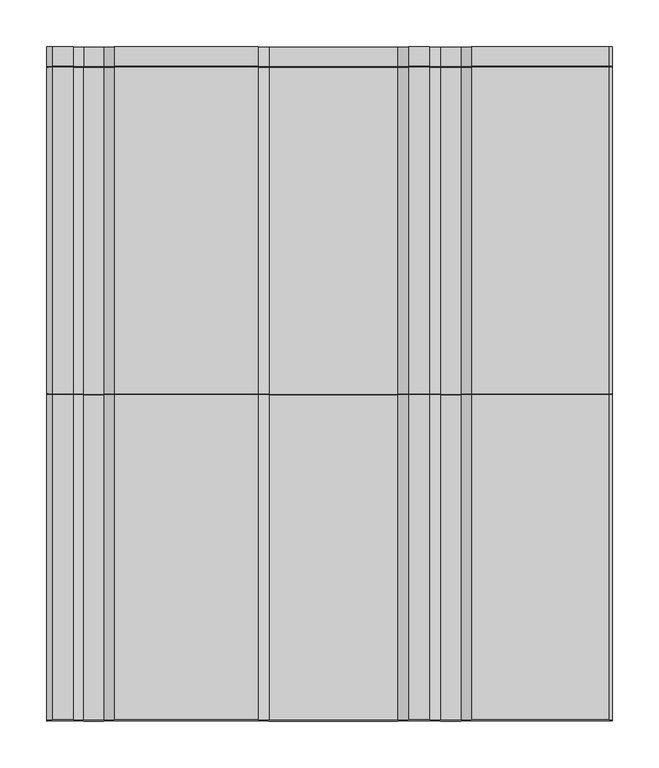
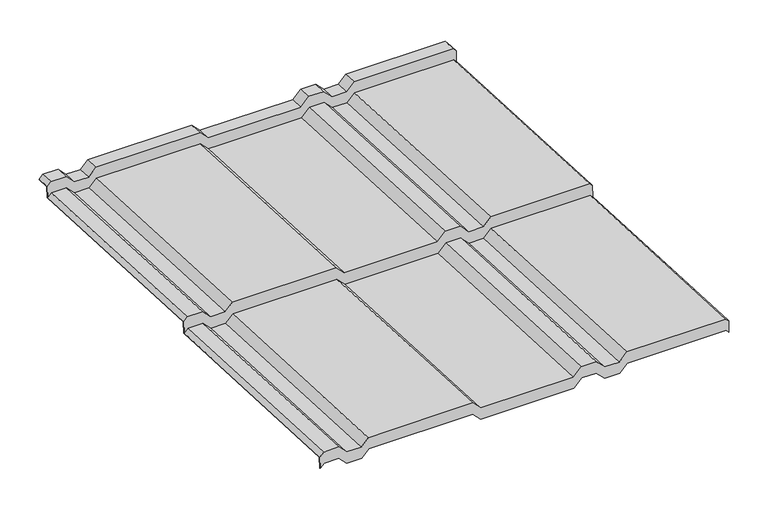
"""IFC4 building model written with IfcOpenShell, lengths in millimetres: proxy geometry, AQUAPLAST - Blachodachówka Alice : Blachodachówka Alice."""

from ifc_helpers import new_model, si_unit, origin, place, context, project, spatial, faceted_brep, source, transform, mapped, element, save


def specialty_equipment_0748cc8f(model_context):
    return source(origin(), model_context, "Body", "Brep", [
        faceted_brep([(-571.7598776, 0.6696996, 23.5766757), (-565.8406904, 0.9640097, 29.4885417), (-543.7088996, 0.9640097, 29.4885417), (-532.2088996, 0.3922139, 18.0027657), (-510.4160064, 0.3922139, 18.0027657), (-499.4160064, 0.939149, 28.9891601), (-345.3126919, 0.939149, 28.9891601), (-333.8126919, 0.3673532, 17.5033841), (-195.7283858, 0.3673532, 17.5033841), (-183.7283858, 0.9640097, 29.4885417), (-161.9160064, 0.9640097, 29.4885417), (-149.9160064, 0.3673532, 17.5033841), (-127.9160064, 0.3673532, 17.5033841), (-116.4160064, 0.939149, 28.9891601), (30.3015709, 0.939149, 28.9891601), (34.2401224, 0.7433189, 25.0554801), (34.2401224, -0.0870281, 8.3761359), (30.3015709, 0.1088021, 12.3098159), (-116.4160064, 0.1088021, 12.3098159), (-127.9160064, -0.4629937, 0.8240399), (-149.9160064, -0.4629937, 0.8240399), (-161.9160064, 0.1336628, 12.8091974), (-183.7283858, 0.1336628, 12.8091974), (-195.7283858, -0.4629937, 0.8240399), (-333.8126919, -0.4629937, 0.8240399), (-345.3126919, 0.1088021, 12.3098159), (-499.4160064, 0.1088021, 12.3098159), (-510.4160064, -0.438133, 1.3234215), (-532.2088996, -0.438133, 1.3234215), (-543.7088996, 0.1336628, 12.8091974), (-565.8406904, 0.1336628, 12.8091974), (-571.7598776, -0.1606473, 6.8973315), (-566.0477972, 699.809845, 29.1155052), (-571.7598776, 699.5258325, 23.4104899), (-571.7598776, 698.711645, 7.0557437), (-566.0477972, 698.9956575, 12.760759), (-543.5017928, 698.9956575, 12.760759), (-532.0017928, 698.4238617, 1.274983), (-510.6231132, 698.4238617, 1.274983), (-499.6231132, 698.9707968, 12.2613774), (-345.1055852, 698.9707968, 12.2613774), (-333.6055852, 698.399001, 0.7756015), (-195.9354926, 698.399001, 0.7756015), (-183.9354926, 698.9956575, 12.760759), (-161.7088996, 698.9956575, 12.760759), (-149.7088996, 698.399001, 0.7756015), (-128.1231132, 698.399001, 0.7756015), (-116.6231132, 698.9707968, 12.2613774), (30.5086777, 698.9707968, 12.2613774), (34.2401224, 698.7852643, 8.5345481), (34.2401224, 699.5994518, 24.8892943), (30.5086777, 699.7849843, 28.6161237), (-116.6231132, 699.7849843, 28.6161237), (-128.1231132, 699.2131885, 17.1303477), (-149.7088996, 699.2131885, 17.1303477), (-161.7088996, 699.809845, 29.1155052), (-183.9354926, 699.809845, 29.1155052), (-195.9354926, 699.2131885, 17.1303477), (-333.6055852, 699.2131885, 17.1303477), (-345.1055852, 699.7849843, 28.6161237), (-499.6231132, 699.7849843, 28.6161237), (-510.6231132, 699.2380492, 17.6297293), (-532.0017928, 699.2380492, 17.6297293), (-543.5017928, 699.809845, 29.1155052), (-510.4160064, 720.1872142, 16.0861988), (-532.2088996, 720.1872142, 16.0861988), (-543.7088996, 720.75901, 27.5719748), (-565.8406904, 720.75901, 27.5719748), (-571.7598776, 720.4646999, 21.6601089), (-571.7598776, 720.4998582, 22.3663411), (-566.0477972, 720.7838707, 28.0713564), (-543.5017928, 720.7838707, 28.0713564), (-532.0017928, 720.2120749, 16.5855804), (-510.6231132, 720.2120749, 16.5855804), (-499.6231132, 720.75901, 27.5719748), (-345.1055852, 720.75901, 27.5719748), (-333.6055852, 720.1872142, 16.0861988), (-195.9354926, 720.1872142, 16.0861988), (-183.9354926, 720.7838707, 28.0713564), (-161.7088996, 720.7838707, 28.0713564), (-149.7088996, 720.1872142, 16.0861988), (-128.1231132, 720.1872142, 16.0861988), (-116.6231132, 720.75901, 27.5719748), (30.5086777, 720.75901, 27.5719748), (34.2401224, 720.5734774, 23.8451454), (34.2401224, 720.5383191, 23.1389133), (30.3015709, 720.7341493, 27.0725932), (-116.4160064, 720.7341493, 27.0725932), (-127.9160064, 720.1623535, 15.5868173), (-149.9160064, 720.1623535, 15.5868173), (-161.9160064, 720.75901, 27.5719748), (-183.7283858, 720.75901, 27.5719748), (-195.7283858, 720.1623535, 15.5868173), (-333.8126919, 720.1623535, 15.5868173), (-345.3126919, 720.7341493, 27.0725932), (-499.4160064, 720.7341493, 27.0725932), (-571.7598776, 699.6752498, 6.2997901), (-571.7598776, 700.4894373, 22.6545364), (-565.8406904, 700.7837474, 28.5664023), (-543.7088996, 700.7837474, 28.5664023), (-532.2088996, 700.2119516, 17.0806263), (-510.4160064, 700.2119516, 17.0806263), (-499.4160064, 700.7588868, 28.0670207), (-345.3126919, 700.7588868, 28.0670207), (-333.8126919, 700.187091, 16.5812448), (-195.7283858, 700.187091, 16.5812448), (-183.7283858, 700.7837474, 28.5664023), (-161.9160064, 700.7837474, 28.5664023), (-149.9160064, 700.187091, 16.5812448), (-127.9160064, 700.187091, 16.5812448), (-116.4160064, 700.7588868, 28.0670207), (30.3015709, 700.7588868, 28.0670207), (34.2401224, 700.5630566, 24.1333407), (34.2401224, 699.7488691, 7.7785945), (30.3015709, 699.9446993, 11.7122745), (-116.4160064, 699.9446993, 11.7122745), (-127.9160064, 699.3729035, 0.2264985), (-149.9160064, 699.3729035, 0.2264985), (-161.9160064, 699.9695599, 12.2116561), (-183.7283858, 699.9695599, 12.2116561), (-195.7283858, 699.3729035, 0.2264985), (-333.8126919, 699.3729035, 0.2264985), (-345.3126919, 699.9446993, 11.7122745), (-499.4160064, 699.9446993, 11.7122745), (-510.4160064, 699.3977641, 0.7258801), (-532.2088996, 699.3977641, 0.7258801), (-543.7088996, 699.9695599, 12.2116561), (-565.8406904, 699.9695599, 12.2116561), (-566.0477972, 349.4285629, 30.1632399), (-571.7598776, 349.1445504, 24.4582245), (-571.7598776, 348.2744263, 6.9798698), (-566.0477972, 348.5584388, 12.6848851), (-543.5017928, 348.5584388, 12.6848851), (-532.0017928, 347.986643, 1.1991092), (-510.6231132, 347.986643, 1.1991092), (-499.6231132, 348.5335781, 12.1855036), (-345.1055852, 348.5335781, 12.1855036), (-333.6055852, 347.9617823, 0.6997276), (-195.9354926, 347.9617823, 0.6997276), (-183.9354926, 348.5584388, 12.6848851), (-161.7088996, 348.5584388, 12.6848851), (-149.7088996, 347.9617823, 0.6997276), (-128.1231132, 347.9617823, 0.6997276), (-116.6231132, 348.5335781, 12.1855036), (30.5086777, 348.5335781, 12.1855036), (34.2401224, 348.3480456, 8.4586742), (34.2401224, 349.2181696, 25.9370289), (30.5086777, 349.4037022, 29.6638583), (-116.6231132, 349.4037022, 29.6638583), (-128.1231132, 348.8319064, 18.1780823), (-149.7088996, 348.8319064, 18.1780823), (-161.7088996, 349.4285629, 30.1632399), (-183.9354926, 349.4285629, 30.1632399), (-195.9354926, 348.8319064, 18.1780823), (-333.6055852, 348.8319064, 18.1780823), (-345.1055852, 349.4037022, 29.6638583), (-499.6231132, 349.4037022, 29.6638583), (-510.6231132, 348.8567671, 18.6774639), (-532.0017928, 348.8567671, 18.6774639), (-543.5017928, 349.4285629, 30.1632399), (34.2401224, 350.1817744, 25.1810754), (30.3015709, 350.3776046, 29.1147554), (-116.4160064, 350.3776046, 29.1147554), (-127.9160064, 349.8058088, 17.6289794), (-149.9160064, 349.8058088, 17.6289794), (-161.9160064, 350.4024653, 29.6141369), (-183.7283858, 350.4024653, 29.6141369), (-195.7283858, 349.8058088, 17.6289794), (-333.8126919, 349.8058088, 17.6289794), (-345.3126919, 350.3776046, 29.1147554), (-499.4160064, 350.3776046, 29.1147554), (-510.4160064, 349.8306695, 18.128361), (-532.2088996, 349.8306695, 18.128361), (-543.7088996, 350.4024653, 29.6141369), (-565.8406904, 350.4024653, 29.6141369), (-571.7598776, 350.1081552, 23.702271), (-566.0477972, -0.0098927, 30.0376446), (-571.7598776, -0.2939052, 24.3326293), (-571.7598776, -1.1594105, 6.9470529), (-565.8406904, -0.8651003, 12.8589188), (-543.7088996, -0.8651003, 12.8589188), (-532.2088996, -1.4368961, 1.3731429), (-510.4160064, -1.4368961, 1.3731429), (-499.4160064, -0.889961, 12.3595373), (-345.3126919, -0.889961, 12.3595373), (-333.8126919, -1.4617568, 0.8737613), (-195.7283858, -1.4617568, 0.8737613), (-183.7283858, -0.8651003, 12.8589188), (-161.9160064, -0.8651003, 12.8589188), (-149.9160064, -1.4617568, 0.8737613), (-127.9160064, -1.4617568, 0.8737613), (-116.4160064, -0.889961, 12.3595373), (30.3015709, -0.889961, 12.3595373), (34.2401224, -1.0857912, 8.4258573), (34.2401224, -0.220286, 25.8114337), (30.5086777, -0.0347534, 29.538263), (-116.6231132, -0.0347534, 29.538263), (-128.1231132, -0.6065492, 18.0524871), (-149.7088996, -0.6065492, 18.0524871), (-161.7088996, -0.0098927, 30.0376446), (-183.9354926, -0.0098927, 30.0376446), (-195.9354926, -0.6065492, 18.0524871), (-333.6055852, -0.6065492, 18.0524871), (-345.1055852, -0.0347534, 29.538263), (-499.6231132, -0.0347534, 29.538263), (-510.6231132, -0.5816885, 18.5518686), (-532.0017928, -0.5816885, 18.5518686), (-543.5017928, -0.0098927, 30.0376446), (-510.4160064, 348.9605455, 0.6500062), (-532.2088996, 348.9605455, 0.6500062), (-543.7088996, 349.5323413, 12.1357822), (-565.8406904, 349.5323413, 12.1357822), (-571.7598776, 349.2380311, 6.2239163), (34.2401224, 349.3116504, 7.7027206), (30.3015709, 349.5074806, 11.6364006), (-116.4160064, 349.5074806, 11.6364006), (-127.9160064, 348.9356848, 0.1506247), (-149.9160064, 348.9356848, 0.1506247), (-161.9160064, 349.5323413, 12.1357822), (-183.7283858, 349.5323413, 12.1357822), (-195.7283858, 348.9356848, 0.1506247), (-333.8126919, 348.9356848, 0.1506247), (-345.3126919, 349.5074806, 11.6364006), (-499.4160064, 349.5074806, 11.6364006), (30.3015709, 348.5087174, 11.686122), (-116.4160064, 348.5087174, 11.686122), (-127.9160064, 347.9369216, 0.200346), (-149.9160064, 347.9369216, 0.200346), (-161.9160064, 348.5335781, 12.1855036), (-183.7283858, 348.5335781, 12.1855036), (-195.7283858, 347.9369216, 0.200346), (-333.8126919, 347.9369216, 0.200346), (-345.3126919, 348.5087174, 11.686122), (-499.4160064, 348.5087174, 11.686122), (-510.4160064, 347.9617823, 0.6997276), (-532.2088996, 347.9617823, 0.6997276), (-543.7088996, 348.5335781, 12.1855036), (-565.8406904, 348.5335781, 12.1855036), (-566.0477972, 700.8086081, 29.0657839), (-543.5017928, 700.8086081, 29.0657839), (-532.0017928, 700.2368123, 17.5800079), (-510.6231132, 700.2368123, 17.5800079), (-499.6231132, 700.7837474, 28.5664023), (-345.1055852, 700.7837474, 28.5664023), (-333.6055852, 700.2119516, 17.0806263), (-195.9354926, 700.2119516, 17.0806263), (-183.9354926, 700.8086081, 29.0657839), (-161.7088996, 700.8086081, 29.0657839), (-149.7088996, 700.2119516, 17.0806263), (-128.1231132, 700.2119516, 17.0806263), (-116.6231132, 700.7837474, 28.5664023), (30.5086777, 700.7837474, 28.5664023)], [[[0, 1, 2, 3, 4, 5, 6, 7, 8, 9, 10, 11, 12, 13, 14, 15, 16, 17, 18, 19, 20, 21, 22, 23, 24, 25, 26, 27, 28, 29, 30, 31]], [[32, 33, 34, 35, 36, 37, 38, 39, 40, 41, 42, 43, 44, 45, 46, 47, 48, 49, 50, 51, 52, 53, 54, 55, 56, 57, 58, 59, 60, 61, 62, 63]], [[64, 65, 66, 67, 68, 69, 70, 71, 72, 73, 74, 75, 76, 77, 78, 79, 80, 81, 82, 83, 84, 85, 86, 87, 88, 89, 90, 91, 92, 93, 94, 95]], [[96, 97, 98, 99, 100, 101, 102, 103, 104, 105, 106, 107, 108, 109, 110, 111, 112, 113, 114, 115, 116, 117, 118, 119, 120, 121, 122, 123, 124, 125, 126, 127]], [[128, 129, 130, 131, 132, 133, 134, 135, 136, 137, 138, 139, 140, 141, 142, 143, 144, 145, 146, 147, 148, 149, 150, 151, 152, 153, 154, 155, 156, 157, 158, 159]], [[157, 38, 37, 158]], [[156, 39, 38, 157]], [[155, 40, 39, 156]], [[154, 41, 40, 155]], [[153, 42, 41, 154]], [[152, 43, 42, 153]], [[151, 44, 43, 152]], [[150, 45, 44, 151]], [[149, 46, 45, 150]], [[148, 47, 46, 149]], [[147, 48, 47, 148]], [[147, 146, 49, 48]], [[114, 113, 160, 161]], [[114, 161, 162, 115]], [[115, 162, 163, 116]], [[116, 163, 164, 117]], [[117, 164, 165, 118]], [[118, 165, 166, 119]], [[119, 166, 167, 120]], [[120, 167, 168, 121]], [[121, 168, 169, 122]], [[122, 169, 170, 123]], [[123, 170, 171, 124]], [[124, 171, 172, 125]], [[125, 172, 173, 126]], [[126, 173, 174, 127]], [[127, 174, 175, 96]], [[35, 34, 129, 128]], [[159, 36, 35, 128]], [[158, 37, 36, 159]], [[176, 177, 178, 179, 180, 181, 182, 183, 184, 185, 186, 187, 188, 189, 190, 191, 192, 193, 194, 195, 196, 197, 198, 199, 200, 201, 202, 203, 204, 205, 206, 207]], [[208, 209, 210, 211, 212, 175, 174, 173, 172, 171, 170, 169, 168, 167, 166, 165, 164, 163, 162, 161, 160, 213, 214, 215, 216, 217, 218, 219, 220, 221, 222, 223]], [[205, 134, 133, 206]], [[204, 135, 134, 205]], [[203, 136, 135, 204]], [[202, 137, 136, 203]], [[201, 138, 137, 202]], [[200, 139, 138, 201]], [[199, 140, 139, 200]], [[198, 141, 140, 199]], [[197, 142, 141, 198]], [[196, 143, 142, 197]], [[195, 144, 143, 196]], [[195, 194, 145, 144]], [[214, 213, 15, 14, 224]], [[214, 224, 14, 13, 225, 215]], [[215, 225, 13, 12, 226, 216]], [[216, 226, 12, 11, 227, 217]], [[217, 227, 11, 10, 228, 218]], [[218, 228, 10, 9, 229, 219]], [[219, 229, 9, 8, 230, 220]], [[220, 230, 8, 7, 231, 221]], [[221, 231, 7, 6, 232, 222]], [[222, 232, 6, 5, 233, 223]], [[223, 233, 5, 4, 234, 208]], [[208, 234, 4, 3, 235, 209]], [[209, 235, 3, 2, 236, 210]], [[210, 236, 2, 1, 237, 211]], [[237, 1, 0, 212, 211]], [[131, 130, 177, 176]], [[207, 132, 131, 176]], [[206, 133, 132, 207]], [[17, 16, 193, 192]], [[191, 18, 17, 192]], [[190, 19, 18, 191]], [[189, 20, 19, 190]], [[188, 21, 20, 189]], [[187, 22, 21, 188]], [[186, 23, 22, 187]], [[185, 24, 23, 186]], [[184, 25, 24, 185]], [[183, 26, 25, 184]], [[182, 27, 26, 183]], [[181, 28, 27, 182]], [[180, 29, 28, 181]], [[179, 30, 29, 180]], [[178, 31, 30, 179]], [[64, 101, 100, 65]], [[65, 100, 99, 66]], [[66, 99, 98, 67]], [[98, 97, 68, 67]], [[70, 69, 33, 32, 238]], [[63, 239, 71, 70, 238, 32]], [[62, 240, 72, 71, 239, 63]], [[61, 241, 73, 72, 240, 62]], [[60, 242, 74, 73, 241, 61]], [[59, 243, 75, 74, 242, 60]], [[58, 244, 76, 75, 243, 59]], [[57, 245, 77, 76, 244, 58]], [[56, 246, 78, 77, 245, 57]], [[55, 247, 79, 78, 246, 56]], [[54, 248, 80, 79, 247, 55]], [[53, 249, 81, 80, 248, 54]], [[52, 250, 82, 81, 249, 53]], [[51, 251, 83, 82, 250, 52]], [[251, 51, 50, 84, 83]], [[86, 85, 112, 111]], [[86, 111, 110, 87]], [[87, 110, 109, 88]], [[88, 109, 108, 89]], [[89, 108, 107, 90]], [[90, 107, 106, 91]], [[91, 106, 105, 92]], [[92, 105, 104, 93]], [[93, 104, 103, 94]], [[94, 103, 102, 95]], [[95, 102, 101, 64]], [[178, 177, 130, 129, 34, 33, 69, 68, 97, 96, 175, 212, 0, 31]], [[49, 146, 145, 194, 193, 16, 15, 213, 160, 113, 112, 85, 84, 50]]]),
    ])


if __name__ == "__main__":
    model = new_model("IFC4")
    model_context = context("Model", 3, world=origin())
    ifc_project = project(units=[si_unit("LENGTHUNIT", "METRE", prefix="MILLI")], contexts=[model_context])
    site = spatial("IfcSite", under=ifc_project)
    building = spatial("IfcBuilding", under=site)
    placement = place(None, origin())
    specialty_equipment_shape = specialty_equipment_0748cc8f(model_context)
    element("IfcBuildingElementProxy", 1, Name="AQUAPLAST - Blachodachówka Alice : Blachodachówka Alice", ObjectType="AQUAPLAST - Blachodachówka Alice : Blachodachówka Alice", at=placement, inside=building, context=model_context, shape_type="MappedRepresentation", body=[
        mapped(specialty_equipment_shape, transform((0.0, 0.0, 0.0), x_axis=(1.0, 0.0, 0.0), y_axis=(0.0, 1.0, 0.0), z_axis=(0.0, 0.0, 1.0))),
    ])
    save(model, "model.ifc")
